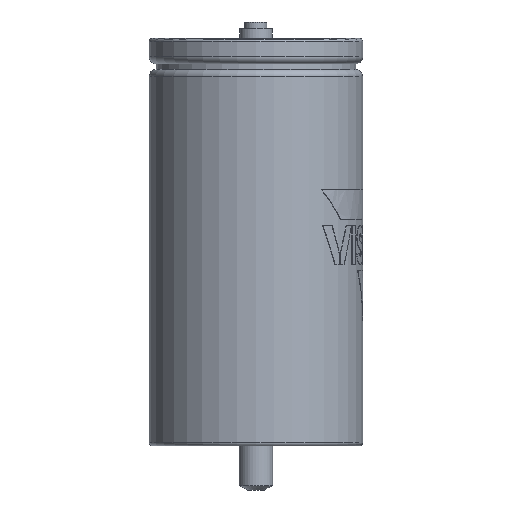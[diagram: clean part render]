
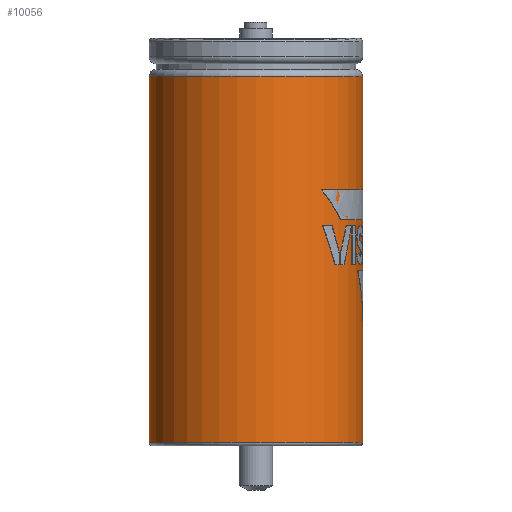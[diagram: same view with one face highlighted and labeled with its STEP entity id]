
A CAD part, left-side view. The second image highlights one B-rep face of the part: STEP entity #10056.
In plain terms, the highlighted cylindrical face has radius 38.2 mm (diameter 76.4 mm), a full revolution.
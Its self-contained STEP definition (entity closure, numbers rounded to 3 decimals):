
#9989 = TOROIDAL_SURFACE('',#9990,37.1,1.1);
#9990 = AXIS2_PLACEMENT_3D('',#9991,#9992,#9993);
#9991 = CARTESIAN_POINT('',(0.,0.,-143.6));
#9992 = DIRECTION('',(0.,0.,1.));
#9993 = DIRECTION('',(1.,0.,0.));
#10006 = VERTEX_POINT('',#10007);
#10007 = CARTESIAN_POINT('',(38.2,0.,-143.6));
#10029 = EDGE_CURVE('',#10006,#10006,#10030,.T.);
#10030 = SURFACE_CURVE('',#10031,(#10036,#10043),.PCURVE_S1.);
#10031 = CIRCLE('',#10032,38.2);
#10032 = AXIS2_PLACEMENT_3D('',#10033,#10034,#10035);
#10033 = CARTESIAN_POINT('',(0.,0.,-143.6));
#10034 = DIRECTION('',(0.,-0.,1.));
#10035 = DIRECTION('',(1.,0.,0.));
#10036 = PCURVE('',#9989,#10037);
#10037 = DEFINITIONAL_REPRESENTATION('',(#10038),#10042);
#10038 = LINE('',#10039,#10040);
#10039 = CARTESIAN_POINT('',(0.,6.283));
#10040 = VECTOR('',#10041,1.);
#10041 = DIRECTION('',(1.,0.));
#10042 = ( GEOMETRIC_REPRESENTATION_CONTEXT(2) 
PARAMETRIC_REPRESENTATION_CONTEXT() REPRESENTATION_CONTEXT('2D SPACE',''
  ) );
#10043 = PCURVE('',#10044,#10049);
#10044 = CYLINDRICAL_SURFACE('',#10045,38.2);
#10045 = AXIS2_PLACEMENT_3D('',#10046,#10047,#10048);
#10046 = CARTESIAN_POINT('',(0.,0.,-143.6));
#10047 = DIRECTION('',(0.,0.,1.));
#10048 = DIRECTION('',(1.,0.,0.));
#10049 = DEFINITIONAL_REPRESENTATION('',(#10050),#10054);
#10050 = LINE('',#10051,#10052);
#10051 = CARTESIAN_POINT('',(0.,0.));
#10052 = VECTOR('',#10053,1.);
#10053 = DIRECTION('',(1.,0.));
#10054 = ( GEOMETRIC_REPRESENTATION_CONTEXT(2) 
PARAMETRIC_REPRESENTATION_CONTEXT() REPRESENTATION_CONTEXT('2D SPACE',''
  ) );
#10056 = ADVANCED_FACE('',(#10057),#10044,.T.);
#10057 = FACE_BOUND('',#10058,.T.);
#10058 = EDGE_LOOP('',(#10059,#10060,#10083,#10110));
#10059 = ORIENTED_EDGE('',*,*,#10029,.T.);
#10060 = ORIENTED_EDGE('',*,*,#10061,.T.);
#10061 = EDGE_CURVE('',#10006,#10062,#10064,.T.);
#10062 = VERTEX_POINT('',#10063);
#10063 = CARTESIAN_POINT('',(38.2,0.,-12.5));
#10064 = SEAM_CURVE('',#10065,(#10069,#10076),.PCURVE_S1.);
#10065 = LINE('',#10066,#10067);
#10066 = CARTESIAN_POINT('',(38.2,0.,-143.6));
#10067 = VECTOR('',#10068,1.);
#10068 = DIRECTION('',(0.,0.,1.));
#10069 = PCURVE('',#10044,#10070);
#10070 = DEFINITIONAL_REPRESENTATION('',(#10071),#10075);
#10071 = LINE('',#10072,#10073);
#10072 = CARTESIAN_POINT('',(0.,0.));
#10073 = VECTOR('',#10074,1.);
#10074 = DIRECTION('',(0.,1.));
#10075 = ( GEOMETRIC_REPRESENTATION_CONTEXT(2) 
PARAMETRIC_REPRESENTATION_CONTEXT() REPRESENTATION_CONTEXT('2D SPACE',''
  ) );
#10076 = PCURVE('',#10044,#10077);
#10077 = DEFINITIONAL_REPRESENTATION('',(#10078),#10082);
#10078 = LINE('',#10079,#10080);
#10079 = CARTESIAN_POINT('',(6.283,0.));
#10080 = VECTOR('',#10081,1.);
#10081 = DIRECTION('',(0.,1.));
#10082 = ( GEOMETRIC_REPRESENTATION_CONTEXT(2) 
PARAMETRIC_REPRESENTATION_CONTEXT() REPRESENTATION_CONTEXT('2D SPACE',''
  ) );
#10083 = ORIENTED_EDGE('',*,*,#10084,.F.);
#10084 = EDGE_CURVE('',#10062,#10062,#10085,.T.);
#10085 = SURFACE_CURVE('',#10086,(#10091,#10098),.PCURVE_S1.);
#10086 = CIRCLE('',#10087,38.2);
#10087 = AXIS2_PLACEMENT_3D('',#10088,#10089,#10090);
#10088 = CARTESIAN_POINT('',(0.,0.,-12.5));
#10089 = DIRECTION('',(0.,-0.,1.));
#10090 = DIRECTION('',(1.,0.,0.));
#10091 = PCURVE('',#10044,#10092);
#10092 = DEFINITIONAL_REPRESENTATION('',(#10093),#10097);
#10093 = LINE('',#10094,#10095);
#10094 = CARTESIAN_POINT('',(0.,131.1));
#10095 = VECTOR('',#10096,1.);
#10096 = DIRECTION('',(1.,0.));
#10097 = ( GEOMETRIC_REPRESENTATION_CONTEXT(2) 
PARAMETRIC_REPRESENTATION_CONTEXT() REPRESENTATION_CONTEXT('2D SPACE',''
  ) );
#10098 = PCURVE('',#10099,#10104);
#10099 = TOROIDAL_SURFACE('',#10100,35.7,2.5);
#10100 = AXIS2_PLACEMENT_3D('',#10101,#10102,#10103);
#10101 = CARTESIAN_POINT('',(0.,0.,-12.5));
#10102 = DIRECTION('',(0.,0.,1.));
#10103 = DIRECTION('',(1.,0.,0.));
#10104 = DEFINITIONAL_REPRESENTATION('',(#10105),#10109);
#10105 = LINE('',#10106,#10107);
#10106 = CARTESIAN_POINT('',(0.,0.));
#10107 = VECTOR('',#10108,1.);
#10108 = DIRECTION('',(1.,0.));
#10109 = ( GEOMETRIC_REPRESENTATION_CONTEXT(2) 
PARAMETRIC_REPRESENTATION_CONTEXT() REPRESENTATION_CONTEXT('2D SPACE',''
  ) );
#10110 = ORIENTED_EDGE('',*,*,#10061,.F.);
